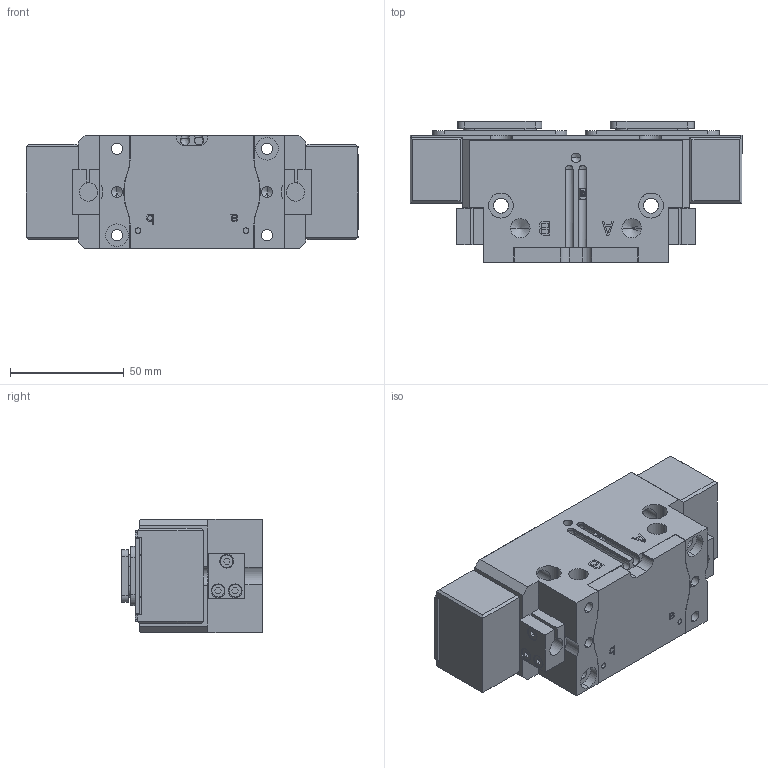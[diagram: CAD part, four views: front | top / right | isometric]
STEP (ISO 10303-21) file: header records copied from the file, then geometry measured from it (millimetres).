
FILE_DESCRIPTION (( 'STEP AP214' ), '1' );
FILE_NAME ('FPT 100A-1-SD.STEP', '2021-09-18T04:16:45', ( 'DEEP' ), ( 'Microsoft' ), 'SwSTEP 2.0', 'SolidWorks 2016', '' );
FILE_SCHEMA (( 'AUTOMOTIVE_DESIGN' ));
Length unit declared in the file: millimetre
Products named in the file (25): FPT 100A-1-004; FPT 100A-1-SD-001; FPT 100A-1-005; FPT 100A-1-SD-003; FPT 100A-1-001; FPT 100A-1-SD-004; FPT 100A-1-002; FPT 100A-1-003; FPT 100A-1-SD-002; FPT 100A-1-SD; FPT100A--01-SD
Assembly tree (15 placements, depth 3):
  FPT 100A-1-SD-001
  FPT 100A-1-SD-003
  FPT 100A-1-SD-004
  FPT 100A-1-SD-003
  FPT 100A-1-SD-002
Bounding box: 146 x 62 x 50 mm (x, y, z)
Volume: 297776.6 mm3; surface area: 91372.8 mm2
Topology: 14 solids, 14 shells, 774 faces, 2040 edges, 1311 vertices
Faces by surface type: plane 465, cylinder 227, cone 76, bspline 6
Entity records: 22400 total; most frequent: CARTESIAN_POINT 4209, DIRECTION 3318, ORIENTED_EDGE 3288, EDGE_CURVE 1644, LINE 1182, VECTOR 1182, VERTEX_POINT 1083, AXIS2_PLACEMENT_3D 1068
